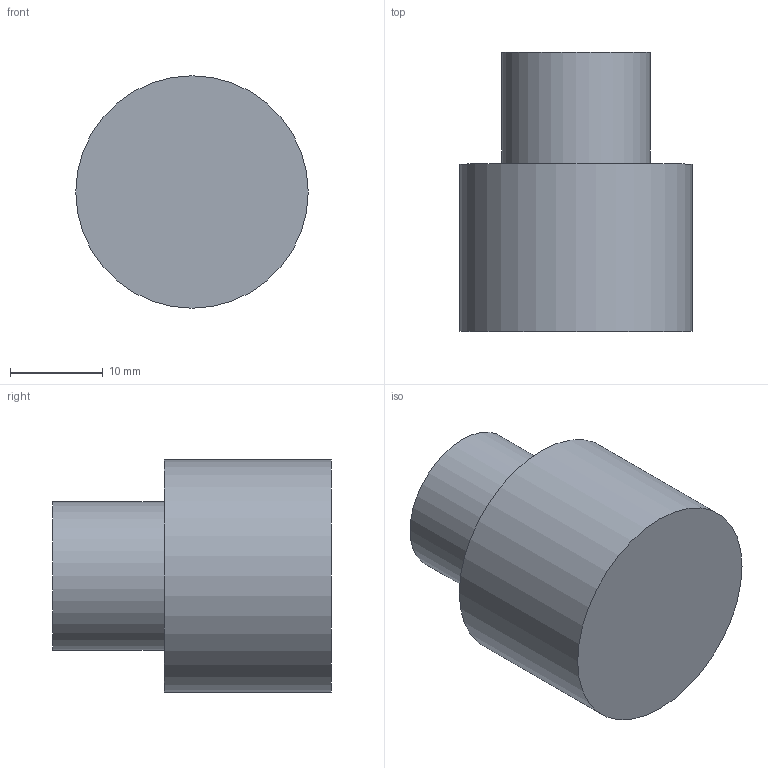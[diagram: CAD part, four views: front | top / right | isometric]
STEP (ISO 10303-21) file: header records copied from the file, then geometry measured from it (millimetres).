
FILE_DESCRIPTION(('Open CASCADE Model'),'2;1');
FILE_NAME('Open CASCADE Shape Model','2026-10-16T05:25:08',('Author'),( 'Open CASCADE'),'Open CASCADE STEP processor 7.9','Open CASCADE 7.9' ,'Unknown');
FILE_SCHEMA(('AUTOMOTIVE_DESIGN { 1 0 10303 214 1 1 1 1 }'));
Length unit declared in the file: millimetre
Products named in the file (1): Open CASCADE STEP translator 7.9 20
Bounding box: 25 x 30 x 25 mm (x, y, z)
Volume: 11248.5 mm3; surface area: 2998.7 mm2
Topology: 1 solids, 1 shells, 5 faces, 6 edges, 4 vertices
Faces by surface type: plane 3, cylinder 2
Full cylindrical faces by diameter (mm): 16 x1, 25 x1
Entity records: 192 total; most frequent: DIRECTION 34, CARTESIAN_POINT 28, ORIENTED_EDGE 12, PCURVE 12, DEFINITIONAL_REPRESENTATION 12, AXIS2_PLACEMENT_3D 10, LINE 10, VECTOR 10
